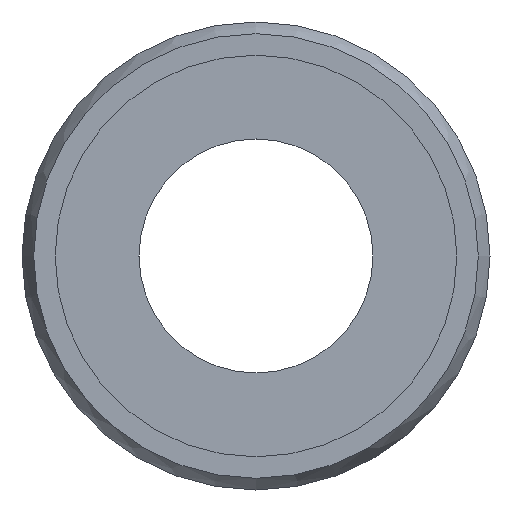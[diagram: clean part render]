
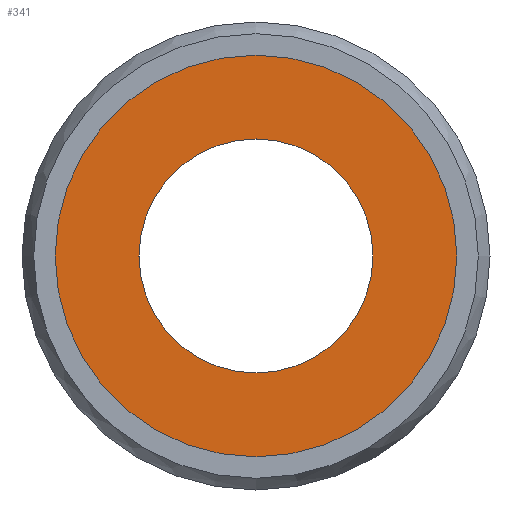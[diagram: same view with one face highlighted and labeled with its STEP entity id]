
A CAD part, left-side view. The second image highlights one B-rep face of the part: STEP entity #341.
In plain terms, the highlighted planar face has unit normal (-1, 0, 0).
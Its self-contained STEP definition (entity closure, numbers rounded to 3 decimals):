
#307=CARTESIAN_POINT('',(0.1,0.0,5.15));
#308=VERTEX_POINT('',#307);
#309=CARTESIAN_POINT('',(0.1,0.0,0.));
#310=DIRECTION('',(-1.0,0.0,0.0));
#311=DIRECTION('',(0.0,0.0,1.0));
#312=AXIS2_PLACEMENT_3D('',#309,#310,#311);
#313=CIRCLE('',#312,5.15);
#314=EDGE_CURVE('',#308,#308,#313,.T.);
#322=CARTESIAN_POINT('',(0.1,0.0,4.075));
#323=DIRECTION('',(-1.0,0.0,0.0));
#324=DIRECTION('',(0.0,0.0,1.0));
#325=AXIS2_PLACEMENT_3D('',#322,#323,#324);
#326=PLANE('',#325);
#327=ORIENTED_EDGE('',*,*,#314,.T.);
#328=EDGE_LOOP('',(#327));
#329=FACE_OUTER_BOUND('',#328,.T.);
#330=CARTESIAN_POINT('',(0.1,0.0,3.));
#331=VERTEX_POINT('',#330);
#332=CARTESIAN_POINT('',(0.1,0.0,0.));
#333=DIRECTION('',(-1.0,0.0,0.0));
#334=DIRECTION('',(0.0,0.0,1.0));
#335=AXIS2_PLACEMENT_3D('',#332,#333,#334);
#336=CIRCLE('',#335,3.);
#337=EDGE_CURVE('',#331,#331,#336,.T.);
#338=ORIENTED_EDGE('',*,*,#337,.F.);
#339=EDGE_LOOP('',(#338));
#340=FACE_BOUND('',#339,.T.);
#341=ADVANCED_FACE('',(#329,#340),#326,.T.);
